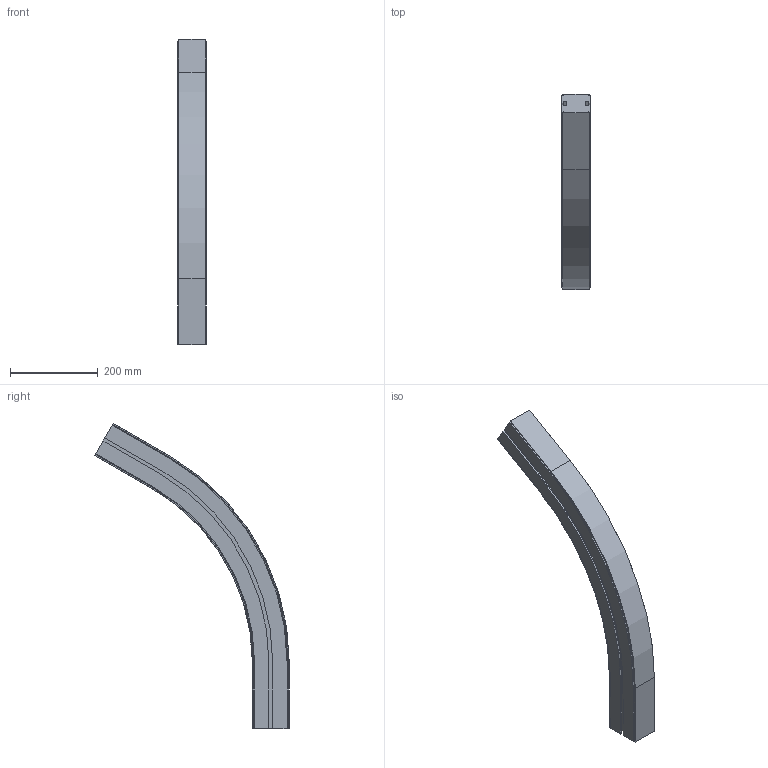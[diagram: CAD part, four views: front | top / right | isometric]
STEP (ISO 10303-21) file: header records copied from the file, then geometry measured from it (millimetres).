
FILE_DESCRIPTION (( 'STEP AP214' ), '1' );
FILE_NAME ('CS SL Verticaalbocht.65 60°.STEP', '2017-02-08T07:37:21', ( '' ), ( '' ), 'SwSTEP 2.0', 'SolidWorks 2016', '' );
FILE_SCHEMA (( 'AUTOMOTIVE_DESIGN' ));
Length unit declared in the file: millimetre
Products named in the file (1): CS SL Verticaalbocht.65 60°
Bounding box: 65 x 442.9 x 694.39 mm (x, y, z)
Volume: 4162987.1 mm3; surface area: 342810.1 mm2
Topology: 1 solids, 1 shells, 98 faces, 272 edges, 176 vertices
Faces by surface type: plane 72, cylinder 18, cone 8
Entity records: 3126 total; most frequent: CARTESIAN_POINT 547, ORIENTED_EDGE 544, DIRECTION 514, EDGE_CURVE 272, LINE 228, VECTOR 228, VERTEX_POINT 176, AXIS2_PLACEMENT_3D 143
